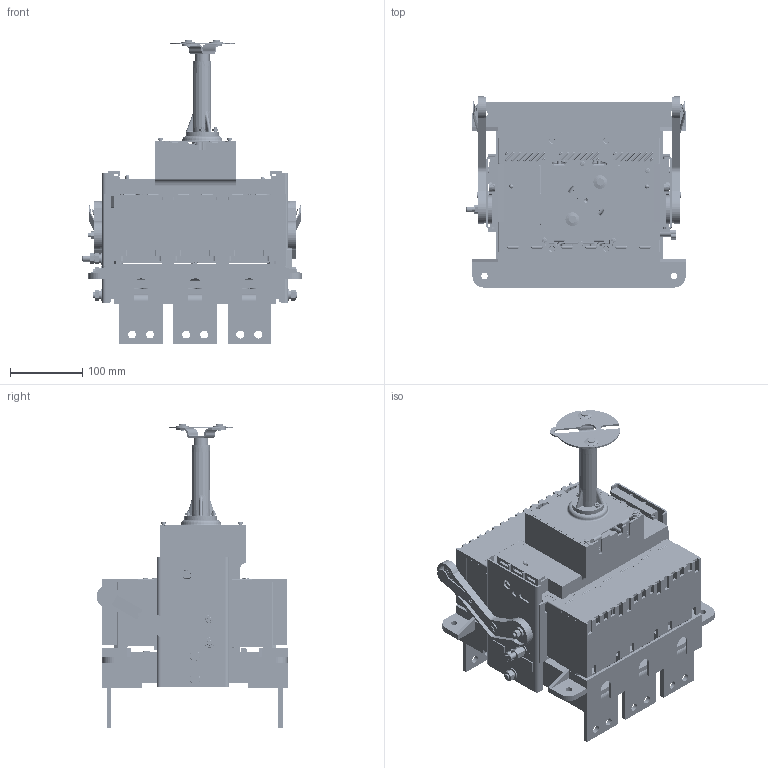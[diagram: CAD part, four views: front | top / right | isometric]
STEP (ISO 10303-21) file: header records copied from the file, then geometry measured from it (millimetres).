
FILE_DESCRIPTION (( 'STEP AP203' ), '1' );
FILE_NAME ('臍57-39 桽桽50.STEP', '2016-09-30T08:21:47', ( 'admin' ), ( '' ), 'SwSTEP 2.0', 'SolidWorks 2012', '' );
FILE_SCHEMA (( 'CONFIG_CONTROL_DESIGN' ));
Products named in the file (1): 臍57-39 桽桽50
Bounding box: 304.6 x 264.99 x 421.5 mm (x, y, z)
Volume: 5979395.6 mm3; surface area: 1487366.3 mm2
Topology: 118 solids, 122 shells, 5706 faces, 14987 edges, 9642 vertices
Faces by surface type: plane 3175, cylinder 1796, cone 258, bspline 170, torus 169, sphere 138
Entity records: 192346 total; most frequent: CARTESIAN_POINT 49365, ORIENTED_EDGE 29934, DIRECTION 29592, EDGE_CURVE 14967, AXIS2_PLACEMENT_3D 9957, VECTOR 9678, LINE 9678, VERTEX_POINT 9642
